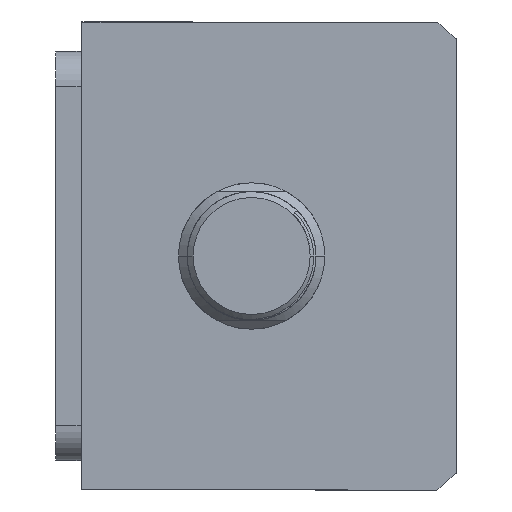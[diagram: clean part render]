
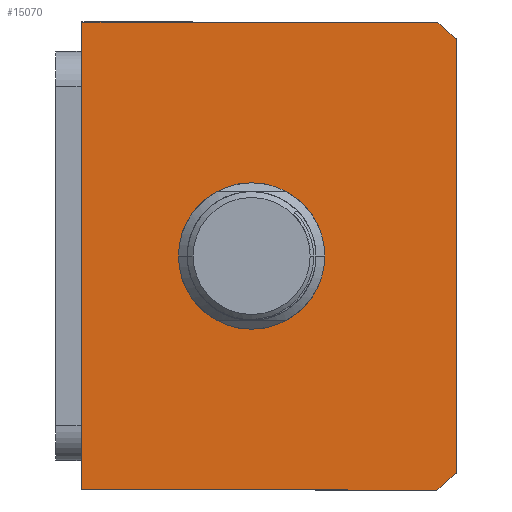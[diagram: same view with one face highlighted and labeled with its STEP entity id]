
A CAD part, front view. The second image highlights one B-rep face of the part: STEP entity #15070.
In plain terms, the highlighted planar face has unit normal (0, -1, 0) as drawn and (0, 0, -1) by its records, which use the part's own axes.
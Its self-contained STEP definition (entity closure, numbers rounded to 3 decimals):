
#593 = DIRECTION ( 'NONE',  ( 0., 0., 1. ) ) ;
#616 = ORIENTED_EDGE ( 'NONE', *, *, #13735, .F. ) ;
#704 = VERTEX_POINT ( 'NONE', #11049 ) ;
#784 = ORIENTED_EDGE ( 'NONE', *, *, #12822, .F. ) ;
#1057 = VECTOR ( 'NONE', #1780, 1000. ) ;
#1341 = DIRECTION ( 'NONE',  ( 1., 0., 0. ) ) ;
#1570 = CIRCLE ( 'NONE', #6957, 51. ) ;
#1780 = DIRECTION ( 'NONE',  ( 0., 1., 0. ) ) ;
#2271 = DIRECTION ( 'NONE',  ( -1., 0., 0. ) ) ;
#2322 = VERTEX_POINT ( 'NONE', #7856 ) ;
#2328 = DIRECTION ( 'NONE',  ( 0., 0., 1. ) ) ;
#2330 = CARTESIAN_POINT ( 'NONE',  ( -40., -28.639, 0. ) ) ;
#2666 = VECTOR ( 'NONE', #2271, 1000. ) ;
#3297 = PLANE ( 'NONE',  #15001 ) ;
#3759 = CIRCLE ( 'NONE', #14877, 12.5 ) ;
#3882 = LINE ( 'NONE', #4833, #7038 ) ;
#4538 = CARTESIAN_POINT ( 'NONE',  ( 37.094, -32., 0. ) ) ;
#4833 = CARTESIAN_POINT ( 'NONE',  ( -40., -32., 0. ) ) ;
#5007 = CARTESIAN_POINT ( 'NONE',  ( 0., 0., 0. ) ) ;
#5173 = CIRCLE ( 'NONE', #9017, 51. ) ;
#5394 = AXIS2_PLACEMENT_3D ( 'NONE', #5873, #15461, #7258 ) ;
#5646 = EDGE_LOOP ( 'NONE', ( #8627, #12886 ) ) ;
#5873 = CARTESIAN_POINT ( 'NONE',  ( 0., 3., 0. ) ) ;
#6087 = EDGE_CURVE ( 'NONE', #2322, #14548, #7732, .T. ) ;
#6322 = LINE ( 'NONE', #16275, #16790 ) ;
#6388 = DIRECTION ( 'NONE',  ( 0., 0., 1. ) ) ;
#6847 = VERTEX_POINT ( 'NONE', #11412 ) ;
#6957 = AXIS2_PLACEMENT_3D ( 'NONE', #8761, #593, #10143 ) ;
#7038 = VECTOR ( 'NONE', #15780, 1000. ) ;
#7258 = DIRECTION ( 'NONE',  ( 1., 0., 0. ) ) ;
#7732 = CIRCLE ( 'NONE', #5394, 12.5 ) ;
#7758 = CARTESIAN_POINT ( 'NONE',  ( -40., 32., 0. ) ) ;
#7829 = VERTEX_POINT ( 'NONE', #15655 ) ;
#7854 = EDGE_CURVE ( 'NONE', #704, #17673, #3882, .T. ) ;
#7856 = CARTESIAN_POINT ( 'NONE',  ( -12.5, 3., 0. ) ) ;
#8627 = ORIENTED_EDGE ( 'NONE', *, *, #13497, .T. ) ;
#8761 = CARTESIAN_POINT ( 'NONE',  ( 0., 3., 0. ) ) ;
#9017 = AXIS2_PLACEMENT_3D ( 'NONE', #17747, #9515, #1341 ) ;
#9495 = DIRECTION ( 'NONE',  ( 0., -1., 0. ) ) ;
#9515 = DIRECTION ( 'NONE',  ( 0., 0., 1. ) ) ;
#9902 = LINE ( 'NONE', #7758, #2666 ) ;
#10143 = DIRECTION ( 'NONE',  ( 1., 0., 0. ) ) ;
#10376 = ORIENTED_EDGE ( 'NONE', *, *, #13066, .F. ) ;
#10507 = CARTESIAN_POINT ( 'NONE',  ( 0., 3., 0. ) ) ;
#10967 = CARTESIAN_POINT ( 'NONE',  ( 40., -28.639, 0. ) ) ;
#11049 = CARTESIAN_POINT ( 'NONE',  ( -37.094, -32., 0. ) ) ;
#11337 = CARTESIAN_POINT ( 'NONE',  ( 40., 32., 0. ) ) ;
#11412 = CARTESIAN_POINT ( 'NONE',  ( 40., 32., 0. ) ) ;
#11879 = DIRECTION ( 'NONE',  ( 1., 0., 0. ) ) ;
#12024 = EDGE_CURVE ( 'NONE', #7829, #15080, #6322, .T. ) ;
#12490 = ORIENTED_EDGE ( 'NONE', *, *, #7854, .F. ) ;
#12822 = EDGE_CURVE ( 'NONE', #15080, #704, #1570, .T. ) ;
#12886 = ORIENTED_EDGE ( 'NONE', *, *, #6087, .T. ) ;
#13066 = EDGE_CURVE ( 'NONE', #6847, #7829, #9902, .T. ) ;
#13449 = ORIENTED_EDGE ( 'NONE', *, *, #17653, .F. ) ;
#13497 = EDGE_CURVE ( 'NONE', #14548, #2322, #3759, .T. ) ;
#13735 = EDGE_CURVE ( 'NONE', #17673, #14824, #5173, .T. ) ;
#14486 = CARTESIAN_POINT ( 'NONE',  ( 12.5, 3., 0. ) ) ;
#14548 = VERTEX_POINT ( 'NONE', #14486 ) ;
#14824 = VERTEX_POINT ( 'NONE', #10967 ) ;
#14877 = AXIS2_PLACEMENT_3D ( 'NONE', #10507, #2328, #11879 ) ;
#15001 = AXIS2_PLACEMENT_3D ( 'NONE', #5007, #6388, #15959 ) ;
#15070 = ADVANCED_FACE ( 'NONE', ( #16698, #17167 ), #3297, .F. ) ;
#15080 = VERTEX_POINT ( 'NONE', #2330 ) ;
#15125 = ORIENTED_EDGE ( 'NONE', *, *, #12024, .F. ) ;
#15168 = LINE ( 'NONE', #11337, #1057 ) ;
#15461 = DIRECTION ( 'NONE',  ( 0., 0., 1. ) ) ;
#15655 = CARTESIAN_POINT ( 'NONE',  ( -40., 32., 0. ) ) ;
#15780 = DIRECTION ( 'NONE',  ( 1., 0., 0. ) ) ;
#15959 = DIRECTION ( 'NONE',  ( 1., 0., 0. ) ) ;
#16275 = CARTESIAN_POINT ( 'NONE',  ( -40., 32., 0. ) ) ;
#16698 = FACE_BOUND ( 'NONE', #5646, .T. ) ;
#16790 = VECTOR ( 'NONE', #9495, 1000. ) ;
#17167 = FACE_OUTER_BOUND ( 'NONE', #17346, .T. ) ;
#17346 = EDGE_LOOP ( 'NONE', ( #784, #15125, #10376, #13449, #616, #12490 ) ) ;
#17653 = EDGE_CURVE ( 'NONE', #14824, #6847, #15168, .T. ) ;
#17673 = VERTEX_POINT ( 'NONE', #4538 ) ;
#17747 = CARTESIAN_POINT ( 'NONE',  ( 0., 3., 0. ) ) ;
